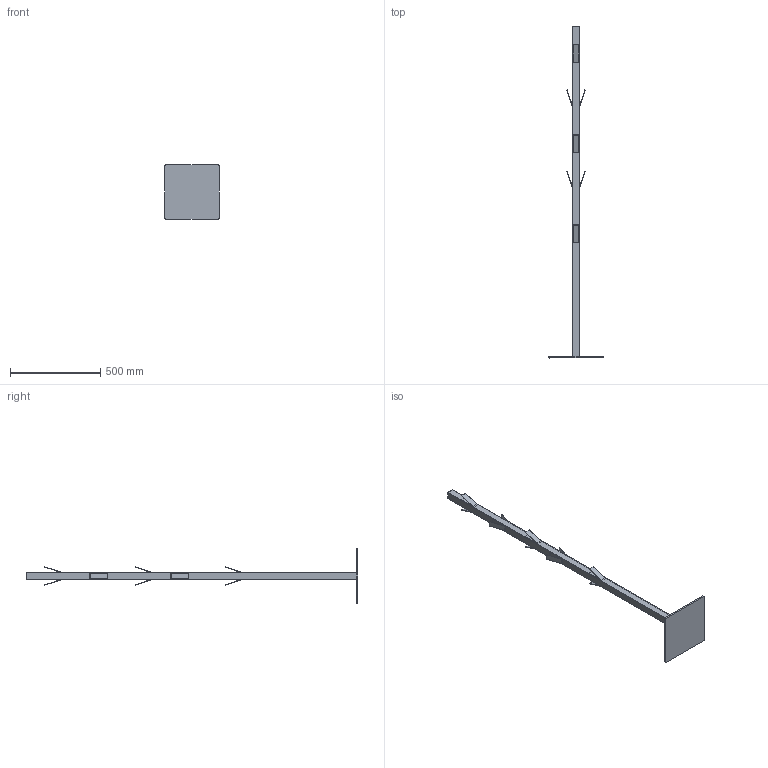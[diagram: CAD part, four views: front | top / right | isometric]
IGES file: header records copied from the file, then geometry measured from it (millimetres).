
Start section: SolidWorks IGES file using NURBS representation for surfaces
Global section: file name: G:\VICCARBE\PRODUCTOS\FAMILIAS 2D - 3D (PRODUCTOS VICCARBE)\3D (IGES + STL + DWG)\02-WINDOW\01-IGES\VICCARBE_Window_coathangerstand.IGS; native system: SolidWorks 2009; preprocessor: SolidWorks 2009; author: RUBEN; date: 110830.124253; units: millimetre
Bounding box: 300 x 1840 x 300 mm (x, y, z)
Surface area: 1011781.8 mm2 (no closed solid volume)
Topology: 0 solids, 0 shells, 146 faces, 1056 edges, 1056 vertices
Faces by surface type: bspline 146
